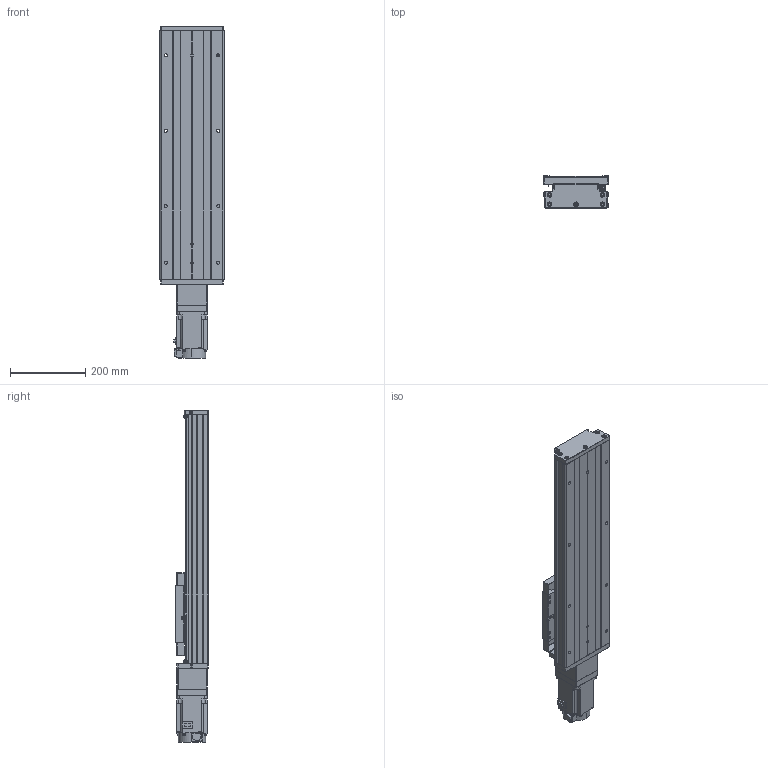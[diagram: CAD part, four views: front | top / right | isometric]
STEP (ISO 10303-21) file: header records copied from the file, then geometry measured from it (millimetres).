
FILE_DESCRIPTION (( 'STEP AP203' ), '1' );
FILE_NAME ('GTH17-400-BC-M75-C4.step', '2023-06-30T11:21:31', ( '微软用户' ), ( '微软中国' ), 'SwSTEP 2.0', 'SolidWorks 2020', '' );
FILE_SCHEMA (( 'CONFIG_CONTROL_DESIGN' ));
Length unit declared in the file: millimetre
Products named in the file (20): GTH17-013; GTH17-005; GBT 70.1-M6¡Á20_M6¡Á20; GTH17-027-1; GB1155-6X6; GTH17-031; HG-KN73J-S100; CTHA60-017; GBT 70.2-M3¡Á5_M3¡Á6; GTH17-400-BC-M75-C4; EE_SX911P_R; す晦芛蹟隊 M3℅5; GTH17-001_400; CTHA60-016; GBT 70.3-M3℅8; GTH17-002_GTH17-002; GBT 70.1-M3℅5; GTH17-006-2_M75; GTH17-004; GBT77-2000 M3×3
Assembly tree (57 placements, depth 2):
  GTH17-400-BC-M75-C4
    GTH17-001_400
    GTH17-002_GTH17-002
    GTH17-004
    GTH17-005
    GB1155-6X6  x2
    CTHA60-017  x3
    EE_SX911P_R  x3
    CTHA60-016  x2
    GBT 70.1-M3℅5  x6
    GBT77-2000 M3×3  x6
    GBT 70.1-M6¡Á20_M6¡Á20  x10
    GTH17-031
    GBT 70.2-M3¡Á5_M3¡Á6  x8
    す晦芛蹟隊 M3℅5  x6
    GBT 70.3-M3℅8  x2
    GTH17-006-2_M75
    GTH17-013
    GTH17-027-1
    HG-KN73J-S100
Bounding box: 171 x 87 x 881.2 mm (x, y, z)
Volume: 6702829.5 mm3; surface area: 915340.2 mm2
Topology: 60 solids, 60 shells, 2394 faces, 5725 edges, 3547 vertices
Faces by surface type: plane 1301, cylinder 646, cone 287, torus 120, sphere 20, bspline 20
Entity records: 44529 total; most frequent: CARTESIAN_POINT 10327, DIRECTION 6417, ORIENTED_EDGE 6366, EDGE_CURVE 3183, AXIS2_PLACEMENT_3D 2171, LINE 2075, VECTOR 2075, VERTEX_POINT 2015
